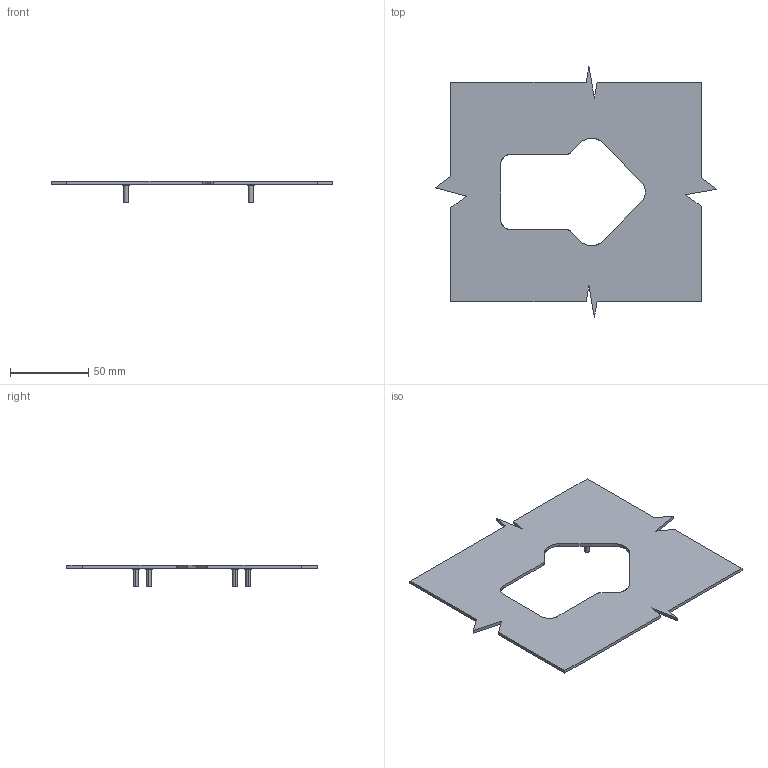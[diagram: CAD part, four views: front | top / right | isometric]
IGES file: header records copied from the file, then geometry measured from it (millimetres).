
Start section: SolidWorks IGES file using analytic representation for surfaces
Global section: file name: C:\Users\anthonyc\Desktop\127-00-33~1.IGS; native system: SolidWorks 2013; preprocessor: SolidWorks 2013; author: anthonyc; date: 150904.142728; units: millimetre
Bounding box: 180 x 160 x 14 mm (x, y, z)
Surface area: 38427.9 mm2 (no closed solid volume)
Topology: 0 solids, 0 shells, 61 faces, 866 edges, 866 vertices
Faces by surface type: bspline 37, revolution 24
